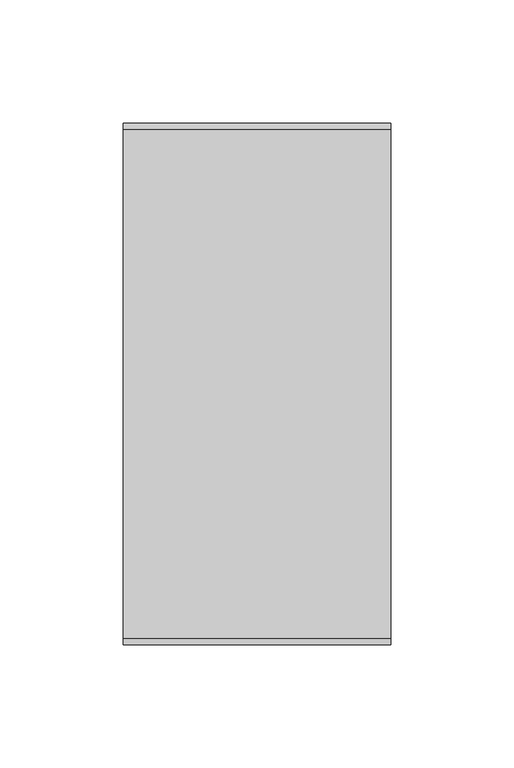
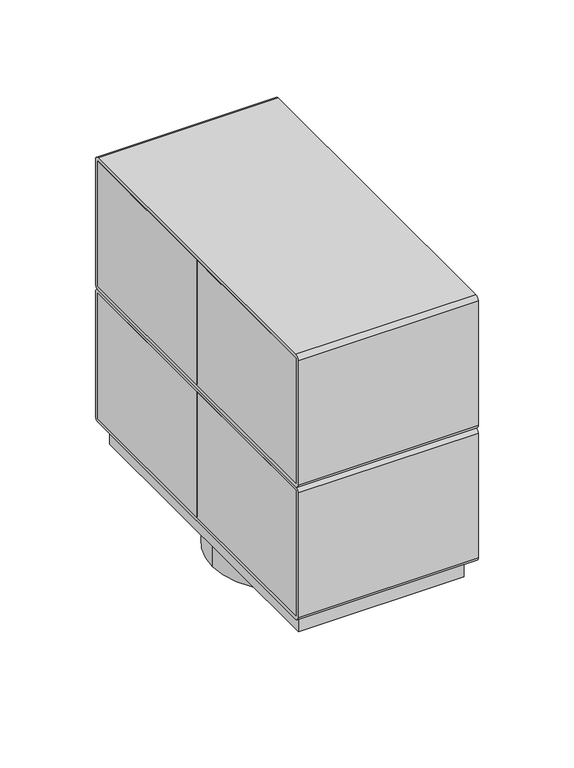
"""IFC4 building model written with IfcOpenShell, lengths in millimetres: proxy geometry, Electrical_Installation_Hager_VE-EE_Pedestal-box-8 : GB pedestal box 8 inst. fields iron gray."""

from ifc_helpers import new_model, si_unit, point, frame, frame_2d, origin, origin_with_axes, origin_2d, place, context, project, spatial, polyline, circle_curve, trimmed, segment, composite_curve, outline, extrude, source, transform, mapped, element, save


def electrical_fixtures_a94ee444(model_context):
    return source(origin(), model_context, "Body", "SweptSolid", [
        extrude(outline(polyline([(1.25, -0.764292), (1.25, 0.764292), (48.9, 0.764292), (48.9, -0.764292), (1.25, -0.764292)])), frame((0.0, 0.0, 99.3), z_axis=(0.0, 0.0, 1.0), x_axis=(1.0, 0.0, 0.0)), (0.0, 0.0, 1.0), 79.9),
        extrude(outline(polyline([(-1.25, 0.764292), (-1.25, -0.764292), (-48.9, -0.764292), (-48.9, 0.764292), (-1.25, 0.764292)])), frame((0.0, 0.0, 99.3), z_axis=(0.0, 0.0, 1.0), x_axis=(1.0, 0.0, 0.0)), (0.0, 0.0, 1.0), 79.9),
        extrude(outline(polyline([(-54.4, 0.0), (-54.4, 103.7), (-48.9, 103.7), (-48.9, 0.0), (-54.4, 0.0)])), frame((0.0, 0.0, 99.3), z_axis=(0.0, 0.0, 1.0), x_axis=(1.0, 0.0, 0.0)), (0.0, 0.0, 1.0), 79.9),
        extrude(outline(polyline([(-54.4, -103.7), (-54.4, 0.0), (-48.9, 0.0), (-48.9, -103.7), (-54.4, -103.7)])), frame((0.0, 0.0, 99.3), z_axis=(0.0, 0.0, 1.0), x_axis=(1.0, 0.0, 0.0)), (0.0, 0.0, 1.0), 79.9),
        extrude(outline(polyline([(54.4, 103.7), (54.4, 0.0), (48.9, 0.0), (48.9, 103.7), (54.4, 103.7)])), frame((0.0, 0.0, 99.3), z_axis=(0.0, 0.0, 1.0), x_axis=(1.0, 0.0, 0.0)), (0.0, 0.0, 1.0), 79.9),
        extrude(outline(composite_curve([segment(polyline([(-103.5, 181.5), (103.5, 181.5)]), True, "CONTINUOUS"), segment(trimmed(circle_curve(frame_2d((103.5, 179.0)), 2.5), [point((103.5, 181.5))], [point((106.0, 179.0))], False, "CARTESIAN"), True, "CONTINUOUS"), segment(polyline([(106.0, 179.0), (106.0, 99.5)]), True, "CONTINUOUS"), segment(trimmed(circle_curve(frame_2d((103.5, 99.5)), 2.5), [point((106.0, 99.5))], [point((103.5, 97.0))], False, "CARTESIAN"), True, "CONTINUOUS"), segment(polyline([(103.5, 97.0), (-103.5, 97.0)]), True, "CONTINUOUS"), segment(trimmed(circle_curve(frame_2d((-103.5, 99.5)), 2.5), [point((-103.5, 97.0))], [point((-106.0, 99.5))], False, "CARTESIAN"), True, "CONTINUOUS"), segment(polyline([(-106.0, 99.5), (-106.0, 179.0)]), True, "CONTINUOUS"), segment(trimmed(circle_curve(frame_2d((-103.5, 179.0)), 2.5), [point((-106.0, 179.0))], [point((-103.5, 181.5))], False, "CARTESIAN"), True, "CONTINUOUS")], self_intersect=False), holes=[polyline([(-103.7, 179.2), (-103.7, 99.3), (103.7, 99.3), (103.7, 179.2), (-103.7, 179.2)])]), frame((-54.4, 0.0, 0.0), z_axis=(1.0, 0.0, 0.0), x_axis=(0.0, 1.0, 0.0)), (0.0, 0.0, 1.0), 108.8),
        extrude(outline(polyline([(54.4, 0.0), (54.4, -103.7), (48.9, -103.7), (48.9, 0.0), (54.4, 0.0)])), frame((0.0, 0.0, 99.3), z_axis=(0.0, 0.0, 1.0), x_axis=(1.0, 0.0, 0.0)), (0.0, 0.0, 1.0), 79.9),
        extrude(outline(polyline([(1.25, 103.7), (1.25, -103.7), (-1.25, -103.7), (-1.25, 103.7), (1.25, 103.7)])), frame((0.0, 0.0, 99.3), z_axis=(0.0, 0.0, 1.0), x_axis=(1.0, 0.0, 0.0)), (0.0, 0.0, 1.0), 79.9),
        extrude(outline(polyline([(1.25, -0.764292), (1.25, 0.764292), (48.9, 0.764292), (48.9, -0.764292), (1.25, -0.764292)])), frame((0.0, 0.0, 14.8), z_axis=(0.0, 0.0, 1.0), x_axis=(1.0, 0.0, 0.0)), (0.0, 0.0, 1.0), 79.9),
        extrude(outline(polyline([(-1.25, 0.764292), (-1.25, -0.764292), (-48.9, -0.764292), (-48.9, 0.764292), (-1.25, 0.764292)])), frame((0.0, 0.0, 14.8), z_axis=(0.0, 0.0, 1.0), x_axis=(1.0, 0.0, 0.0)), (0.0, 0.0, 1.0), 79.9),
        extrude(outline(polyline([(-54.4, 0.0), (-54.4, 103.7), (-48.9, 103.7), (-48.9, 0.0), (-54.4, 0.0)])), frame((0.0, 0.0, 14.8), z_axis=(0.0, 0.0, 1.0), x_axis=(1.0, 0.0, 0.0)), (0.0, 0.0, 1.0), 79.9),
        extrude(outline(polyline([(-54.4, -103.7), (-54.4, 0.0), (-48.9, 0.0), (-48.9, -103.7), (-54.4, -103.7)])), frame((0.0, 0.0, 14.8), z_axis=(0.0, 0.0, 1.0), x_axis=(1.0, 0.0, 0.0)), (0.0, 0.0, 1.0), 79.9),
        extrude(outline(polyline([(54.4, 103.7), (54.4, 0.0), (48.9, 0.0), (48.9, 103.7), (54.4, 103.7)])), frame((0.0, 0.0, 14.8), z_axis=(0.0, 0.0, 1.0), x_axis=(1.0, 0.0, 0.0)), (0.0, 0.0, 1.0), 79.9),
        extrude(outline(composite_curve([segment(polyline([(-103.5, 97.0), (103.5, 97.0)]), True, "CONTINUOUS"), segment(trimmed(circle_curve(frame_2d((103.5, 94.5)), 2.5), [point((103.5, 97.0))], [point((106.0, 94.5))], False, "CARTESIAN"), True, "CONTINUOUS"), segment(polyline([(106.0, 94.5), (106.0, 15.0)]), True, "CONTINUOUS"), segment(trimmed(circle_curve(frame_2d((103.5, 15.0)), 2.5), [point((106.0, 15.0))], [point((103.5, 12.5))], False, "CARTESIAN"), True, "CONTINUOUS"), segment(polyline([(103.5, 12.5), (-103.5, 12.5)]), True, "CONTINUOUS"), segment(trimmed(circle_curve(frame_2d((-103.5, 15.0)), 2.5), [point((-103.5, 12.5))], [point((-106.0, 15.0))], False, "CARTESIAN"), True, "CONTINUOUS"), segment(polyline([(-106.0, 15.0), (-106.0, 94.5)]), True, "CONTINUOUS"), segment(trimmed(circle_curve(frame_2d((-103.5, 94.5)), 2.5), [point((-106.0, 94.5))], [point((-103.5, 97.0))], False, "CARTESIAN"), True, "CONTINUOUS")], self_intersect=False), holes=[polyline([(-103.7, 94.7), (-103.7, 14.8), (103.7, 14.8), (103.7, 94.7), (-103.7, 94.7)])]), frame((-54.4, 0.0, 0.0), z_axis=(1.0, 0.0, 0.0), x_axis=(0.0, 1.0, 0.0)), (0.0, 0.0, 1.0), 108.8),
        extrude(outline(polyline([(54.4, 0.0), (54.4, -103.7), (48.9, -103.7), (48.9, 0.0), (54.4, 0.0)])), frame((0.0, 0.0, 14.8), z_axis=(0.0, 0.0, 1.0), x_axis=(1.0, 0.0, 0.0)), (0.0, 0.0, 1.0), 79.9),
        extrude(outline(composite_curve([segment(trimmed(circle_curve(origin_2d(), 45.0), [point((-45.0, 0.0))], [point((45.0, 0.0))], False, "CARTESIAN"), True, "CONTINUOUS"), segment(trimmed(circle_curve(origin_2d(), 45.0), [point((45.0, 0.0))], [point((-45.0, 0.0))], False, "CARTESIAN"), True, "CONTINUOUS")], self_intersect=False), holes=[composite_curve([segment(trimmed(circle_curve(origin_2d(), 27.5), [point((-27.5, 0.0))], [point((27.5, 0.0))], True, "CARTESIAN"), True, "CONTINUOUS"), segment(trimmed(circle_curve(origin_2d(), 27.5), [point((27.5, 0.0))], [point((-27.5, 0.0))], True, "CARTESIAN"), True, "CONTINUOUS")], self_intersect=False)]), frame((0.0, 0.0, -20.0), z_axis=(0.0, 0.0, 1.0), x_axis=(1.0, 0.0, 0.0)), (0.0, 0.0, 1.0), 20.0),
        extrude(outline(polyline([(1.25, 103.7), (1.25, -103.7), (-1.25, -103.7), (-1.25, 103.7), (1.25, 103.7)])), frame((0.0, 0.0, 14.8), z_axis=(0.0, 0.0, 1.0), x_axis=(1.0, 0.0, 0.0)), (0.0, 0.0, 1.0), 79.9),
        extrude(outline(polyline([(50.0, -98.7), (-50.0, -98.7), (-50.0, 98.7), (50.0, 98.7), (50.0, -98.7)]), holes=[composite_curve([segment(trimmed(circle_curve(frame_2d((-28.5912964, 0.7333267)), 5.0), [point((-24.4955362, 3.6012089))], [point((-25.7234143, -3.3624335))], False, "CARTESIAN"), True, "CONTINUOUS"), segment(polyline([(-25.7234143, -3.3624335), (-34.1678222, -9.2752716)]), True, "CONTINUOUS"), segment(trimmed(circle_curve(frame_2d((-31.29994, -13.3710318)), 5.0), [point((-34.1678222, -9.2752716))], [point((-35.8979613, -15.335262))], True, "CARTESIAN"), True, "CONTINUOUS"), segment(trimmed(circle_curve(origin_2d(), 39.0363149), [point((-35.8979613, -15.335262))], [point((-26.6882584, -28.4880808))], True, "CARTESIAN"), True, "CONTINUOUS"), segment(trimmed(circle_curve(frame_2d((-23.2698699, -24.8391604)), 5.0), [point((-26.6882584, -28.4880808))], [point((-20.4019877, -28.9349206))], True, "CARTESIAN"), True, "CONTINUOUS"), segment(polyline([(-20.4019877, -28.9349206), (-11.9575798, -23.0220826)]), True, "CONTINUOUS"), segment(trimmed(circle_curve(frame_2d((-9.0896976, -27.1178428)), 5.0), [point((-11.9575798, -23.0220826))], [point((-4.9939374, -24.2499606))], False, "CARTESIAN"), True, "CONTINUOUS"), segment(polyline([(-4.9939374, -24.2499606), (3.2975997, -36.0915028)]), True, "CONTINUOUS"), segment(trimmed(circle_curve(frame_2d((7.3933599, -33.2236206)), 5.0), [point((3.2975997, -36.0915028))], [point((8.4794587, -38.1042342))], True, "CARTESIAN"), True, "CONTINUOUS"), segment(trimmed(circle_curve(origin_2d(), 39.0363149), [point((8.4794587, -38.1042342))], [point((32.906122, -21.0005004))], True, "CARTESIAN"), True, "CONTINUOUS"), segment(trimmed(circle_curve(frame_2d((28.6913131, -18.3106332)), 5.0), [point((32.906122, -21.0005004))], [point((32.7870733, -15.442751))], True, "CARTESIAN"), True, "CONTINUOUS"), segment(polyline([(32.7870733, -15.442751), (24.4955362, -3.6012089)]), True, "CONTINUOUS"), segment(trimmed(circle_curve(frame_2d((28.5912964, -0.7333267)), 5.0), [point((24.4955362, -3.6012089))], [point((25.7234143, 3.3624335))], False, "CARTESIAN"), True, "CONTINUOUS"), segment(polyline([(25.7234143, 3.3624335), (34.1678222, 9.2752716)]), True, "CONTINUOUS"), segment(trimmed(circle_curve(frame_2d((31.29994, 13.3710318)), 5.0), [point((34.1678222, 9.2752716))], [point((35.8979613, 15.335262))], True, "CARTESIAN"), True, "CONTINUOUS"), segment(trimmed(circle_curve(origin_2d(), 39.0363149), [point((35.8979613, 15.335262))], [point((26.6882584, 28.4880808))], True, "CARTESIAN"), True, "CONTINUOUS"), segment(trimmed(circle_curve(frame_2d((23.2698699, 24.8391604)), 5.0), [point((26.6882584, 28.4880808))], [point((20.4019877, 28.9349206))], True, "CARTESIAN"), True, "CONTINUOUS"), segment(polyline([(20.4019877, 28.9349206), (11.9575798, 23.0220826)]), True, "CONTINUOUS"), segment(trimmed(circle_curve(frame_2d((9.0896976, 27.1178428)), 5.0), [point((11.9575798, 23.0220826))], [point((4.9939374, 24.2499606))], False, "CARTESIAN"), True, "CONTINUOUS"), segment(polyline([(4.9939374, 24.2499606), (-3.2975997, 36.0915028)]), True, "CONTINUOUS"), segment(trimmed(circle_curve(frame_2d((-7.3933599, 33.2236206)), 5.0), [point((-3.2975997, 36.0915028))], [point((-8.4794587, 38.1042342))], True, "CARTESIAN"), True, "CONTINUOUS"), segment(trimmed(circle_curve(origin_2d(), 39.0363149), [point((-8.4794587, 38.1042342))], [point((-32.906122, 21.0005004))], True, "CARTESIAN"), True, "CONTINUOUS"), segment(trimmed(circle_curve(frame_2d((-28.6913131, 18.3106332)), 5.0), [point((-32.906122, 21.0005004))], [point((-32.7870733, 15.442751))], True, "CARTESIAN"), True, "CONTINUOUS"), segment(polyline([(-32.7870733, 15.442751), (-24.4955362, 3.6012089)]), True, "CONTINUOUS")], self_intersect=False)]), origin_with_axes(), (0.0, 0.0, 1.0), 12.5),
    ])


if __name__ == "__main__":
    model = new_model("IFC4")
    model_context = context("Model", 3, world=origin())
    ifc_project = project(units=[si_unit("LENGTHUNIT", "METRE", prefix="MILLI")], contexts=[model_context])
    site = spatial("IfcSite", under=ifc_project)
    building = spatial("IfcBuilding", under=site)
    placement = place(None, origin())
    electrical_fixtures_shape = electrical_fixtures_a94ee444(model_context)
    element("IfcBuildingElementProxy", 1, Name="Electrical_Installation_Hager_VE-EE_Pedestal-box-8 : GB pedestal box 8 inst. fields iron gray", ObjectType="Electrical_Installation_Hager_VE-EE_Pedestal-box-8 : GB pedestal box 8 inst. fields iron gray", at=placement, inside=building, context=model_context, shape_type="MappedRepresentation", body=[
        mapped(electrical_fixtures_shape, transform((0.0, 0.0, 0.0), x_axis=(1.0, 0.0, 0.0), y_axis=(0.0, 1.0, 0.0), z_axis=(0.0, 0.0, 1.0))),
    ])
    save(model, "model.ifc")
